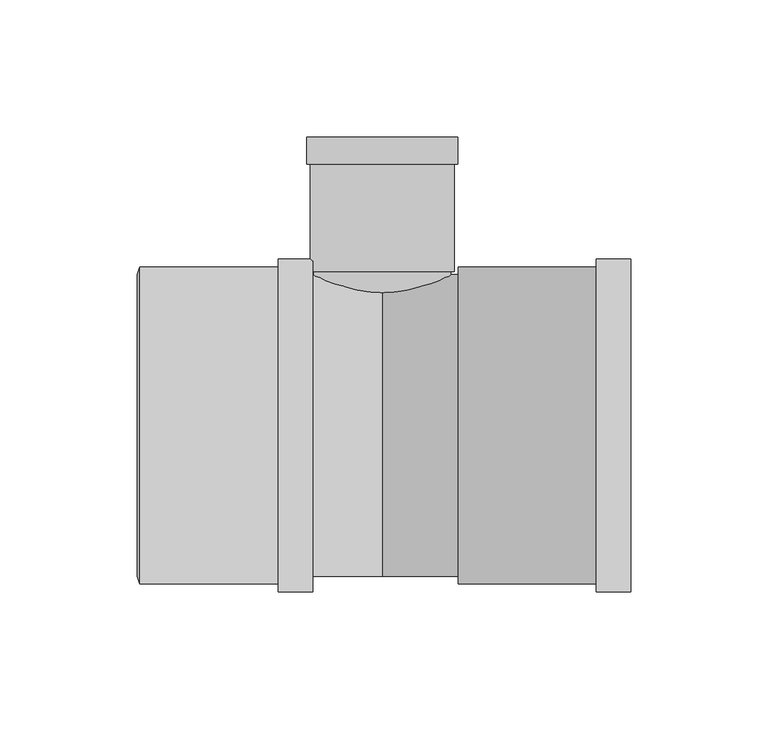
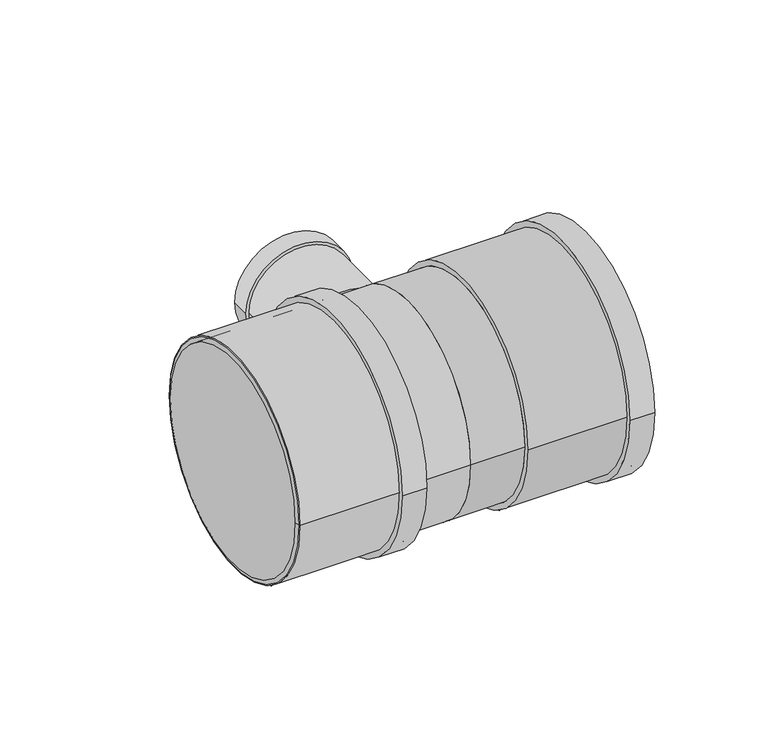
"""IFC4 building model written with IfcOpenShell, lengths in millimetres: pipe fitting geometry, Superdrain HTEA Branch : Superdrain HTEA Branch."""

import ifcopenshell
import ifcopenshell.guid

model = None  # the IFC model being written
_history = None  # IfcOwnerHistory: only IFC2X3 demands one
_inside = {}  # id of a spatial element -> (the spatial element, [elements in it])
_under = {}  # id of a project, library or spatial element -> (it, [spatial elements below it])
_declared = {}  # id of a project -> (the project, [libraries it declares])
_typed = {}  # id of a type object -> (the type object, [elements of that type])
_made_of = {}  # id of a material, layer set ... -> (it, [elements and type objects made of it])


def new_model(schema):
    """Start an empty IFC model of exactly this schema.

    Asked for "IFC4X3", IfcOpenShell would pick the latest addendum, in which some entities
    have other attributes; the version numbers below select the first issue.
    IFC2X3 requires an IfcOwnerHistory on every rooted entity: one is made here for all.
    """
    global model, _history
    if schema == "IFC4X3":
        model = ifcopenshell.file(schema_version=(4, 3, 0, 0))
    else:
        model = ifcopenshell.file(schema=schema)
    _inside.clear()
    _under.clear()
    _declared.clear()
    _typed.clear()
    _made_of.clear()
    _history = None
    if model.schema == "IFC2X3":
        org = make("IfcOrganization", Name="unknown")
        user = make(
            "IfcPersonAndOrganization",
            ThePerson=make("IfcPerson", FamilyName="unknown"),
            TheOrganization=org,
        )
        app = make(
            "IfcApplication",
            ApplicationDeveloper=org,
            Version="unknown",
            ApplicationFullName="unknown",
            ApplicationIdentifier="unknown",
        )
        _history = make(
            "IfcOwnerHistory",
            OwningUser=user,
            OwningApplication=app,
            ChangeAction="ADDED",
            CreationDate=0,
        )
    return model


def make(cls, **values):
    """One entity of the class cls with the attributes given. An attribute that is None is left unset."""
    return model.create_entity(
        cls, **{name: value for name, value in values.items() if value is not None}
    )


def rooted(cls, **values):
    """An entity with a GlobalId (a new one), such as an element, a storey or a relation."""
    return make(cls, GlobalId=ifcopenshell.guid.new(), OwnerHistory=_history, **values)


def si_unit(unit_type, name, prefix=None):
    """IfcSIUnit, for example si_unit("LENGTHUNIT", "METRE", prefix="MILLI")."""
    return make("IfcSIUnit", UnitType=unit_type, Prefix=prefix, Name=name)


def assignment(units):
    """IfcUnitAssignment: the units of a project."""
    return None if units is None else make("IfcUnitAssignment", Units=units)


def point(xyz):
    """IfcCartesianPoint."""
    return None if xyz is None else make("IfcCartesianPoint", Coordinates=xyz)


def direction(xyz):
    """IfcDirection."""
    return None if xyz is None else make("IfcDirection", DirectionRatios=xyz)


def frame(location, z_axis=None, x_axis=None):
    """IfcAxis2Placement3D, a coordinate frame: its origin and axes. An axis left out is left unset."""
    return make(
        "IfcAxis2Placement3D",
        Location=point(location),
        Axis=direction(z_axis),
        RefDirection=direction(x_axis),
    )


def frame_2d(location, x_axis=None):
    """IfcAxis2Placement2D, a coordinate frame in the plane: its origin and x axis."""
    return make(
        "IfcAxis2Placement2D", Location=point(location), RefDirection=direction(x_axis)
    )


def origin():
    """The frame at (0, 0, 0) with its axes left unset."""
    return frame((0.0, 0.0, 0.0))


def origin_2d():
    """The frame at (0, 0) in the plane with its x axis left unset."""
    return frame_2d((0.0, 0.0))


def place(relative_to, where):
    """IfcLocalPlacement: puts the frame where relative to a parent placement (None: the world)."""
    return make(
        "IfcLocalPlacement", PlacementRelTo=relative_to, RelativePlacement=where
    )


def context(
    kind, dimensions, precision=None, world=None, true_north=None, identifier=None
):
    """IfcGeometricRepresentationContext, for example the 3D "Model" context."""
    return make(
        "IfcGeometricRepresentationContext",
        ContextIdentifier=identifier,
        ContextType=kind,
        CoordinateSpaceDimension=dimensions,
        Precision=precision,
        WorldCoordinateSystem=world,
        TrueNorth=true_north,
    )


def project(units=None, contexts=None):
    """IfcProject with its units and contexts."""
    return rooted(
        "IfcProject",
        Name="project",
        RepresentationContexts=contexts,
        UnitsInContext=assignment(units),
    )


def spatial(cls, under=None, at=None, **own):
    """A site, building, storey or space (cls), placed at a placement, below another one or the project."""
    s = rooted(cls, ObjectPlacement=at, **own)
    if under is not None:
        _under.setdefault(under.id(), (under, []))[1].append(s)
    return s


def polyline(points):
    """IfcPolyline through the points."""
    return make("IfcPolyline", Points=[point(p) for p in points])


def circle_curve(where, radius):
    """IfcCircle in the frame where."""
    return make("IfcCircle", Position=where, Radius=radius)


def trimmed(basis, trim1, trim2, sense, master):
    """IfcTrimmedCurve: the piece of a basis curve between two trims."""
    return make(
        "IfcTrimmedCurve",
        BasisCurve=basis,
        Trim1=trim1,
        Trim2=trim2,
        SenseAgreement=sense,
        MasterRepresentation=master,
    )


def segment(curve, same_sense, transition):
    """IfcCompositeCurveSegment."""
    return make(
        "IfcCompositeCurveSegment",
        Transition=transition,
        SameSense=same_sense,
        ParentCurve=curve,
    )


def composite_curve(segments, self_intersect=None):
    """IfcCompositeCurve: segments joined end to end."""
    return make("IfcCompositeCurve", Segments=segments, SelfIntersect=self_intersect)


def outline(outer, holes=None, kind="AREA"):
    """IfcArbitraryClosedProfileDef: a profile drawn as a closed curve; with holes, ...WithVoids."""
    if holes is None:
        return make("IfcArbitraryClosedProfileDef", ProfileType=kind, OuterCurve=outer)
    return make(
        "IfcArbitraryProfileDefWithVoids",
        ProfileType=kind,
        OuterCurve=outer,
        InnerCurves=holes,
    )


def extrude(swept, where, along, depth):
    """IfcExtrudedAreaSolid: the profile swept, set in the frame where, extruded along a direction by depth."""
    return make(
        "IfcExtrudedAreaSolid",
        SweptArea=swept,
        Position=where,
        ExtrudedDirection=direction(along),
        Depth=depth,
    )


def shape(context_of_items, identifier, shape_type, items):
    """IfcShapeRepresentation: the items that make up one representation, for example the "Body"."""
    return make(
        "IfcShapeRepresentation",
        ContextOfItems=context_of_items,
        RepresentationIdentifier=identifier,
        RepresentationType=shape_type,
        Items=items,
    )


def source(mapping_origin, context_of_items, identifier, shape_type, items):
    """IfcRepresentationMap: a shape defined once, which mapped items show again and again."""
    return make(
        "IfcRepresentationMap",
        MappingOrigin=mapping_origin,
        MappedRepresentation=shape(context_of_items, identifier, shape_type, items),
    )


def transform(
    local_origin,
    x_axis=None,
    y_axis=None,
    z_axis=None,
    scale=None,
    scale2=None,
    scale3=None,
    uniform=True,
):
    """IfcCartesianTransformationOperator3D, or its non-uniform kind. x_axis, y_axis, z_axis: its Axis1, 2, 3."""
    if uniform:
        return make(
            "IfcCartesianTransformationOperator3D",
            Axis1=direction(x_axis),
            Axis2=direction(y_axis),
            LocalOrigin=point(local_origin),
            Scale=scale,
            Axis3=direction(z_axis),
        )
    return make(
        "IfcCartesianTransformationOperator3DnonUniform",
        Axis1=direction(x_axis),
        Axis2=direction(y_axis),
        LocalOrigin=point(local_origin),
        Scale=scale,
        Axis3=direction(z_axis),
        Scale2=scale2,
        Scale3=scale3,
    )


def mapped(mapping_source, mapping_target):
    """IfcMappedItem: shows the shape of a source again, moved by a transform."""
    return make(
        "IfcMappedItem", MappingSource=mapping_source, MappingTarget=mapping_target
    )


def made_of(thing, what):
    """Note that an element or type object is made of a material, layer set ...; save() writes the relation."""
    if what is not None:
        _made_of.setdefault(what.id(), (what, []))[1].append(thing)
    return thing


def element(
    cls,
    number,
    at=None,
    inside=None,
    cuts=None,
    type_object=None,
    material=None,
    context=None,
    identifier="Body",
    shape_type=None,
    held_by="IfcProductDefinitionShape",
    body=None,
    shapes=None,
    **own,
):
    """One element of the class cls, such as IfcWall. Its Tag is "e" and its number.

    at: its placement. inside: the storey or other place that contains it. cuts: it is an
    opening in that element (IfcRelVoidsElement). A single representation is given by context,
    identifier, shape_type and body (its items); several are given by shapes. held_by: the class
    of the entity that holds the representations. save() writes the other relations.
    """
    e = rooted(cls, Tag="e%d" % number, ObjectPlacement=at, **own)
    if body is not None:
        shapes = [shape(context, identifier, shape_type, body)]
    if shapes is not None:
        e.Representation = make(held_by, Representations=shapes)
    if inside is not None:
        _inside.setdefault(inside.id(), (inside, []))[1].append(e)
    if cuts is not None:
        rooted(
            "IfcRelVoidsElement", RelatingBuildingElement=cuts, RelatedOpeningElement=e
        )
    if type_object is not None:
        _typed.setdefault(type_object.id(), (type_object, []))[1].append(e)
    return made_of(e, material)


def aggregate(whole, parts):
    """IfcRelAggregates: a whole, such as a stair, and the parts it consists of."""
    return rooted("IfcRelAggregates", RelatingObject=whole, RelatedObjects=parts)


def save(model, path):
    """Write the relations noted so far, then the file.

    IfcRelAggregates (storeys below a building ...), IfcRelContainedInSpatialStructure (elements
    in a storey), IfcRelDefinesByType, IfcRelAssociatesMaterial and IfcRelDeclares: one each for
    every whole, place, type object, material and project.
    """
    for whole, parts in _under.values():
        aggregate(whole, parts)
    for where, things in _inside.values():
        rooted(
            "IfcRelContainedInSpatialStructure",
            RelatedElements=things,
            RelatingStructure=where,
        )
    for kind, things in _typed.values():
        rooted("IfcRelDefinesByType", RelatedObjects=things, RelatingType=kind)
    for what, things in _made_of.values():
        rooted("IfcRelAssociatesMaterial", RelatedObjects=things, RelatingMaterial=what)
    for by, libraries in _declared.values():
        rooted("IfcRelDeclares", RelatingContext=by, RelatedDefinitions=libraries)
    model.write(path)


def plane_surface(at):
    """IfcPlane: the flat surface through the origin of the frame at, square to its z axis."""
    return make("IfcPlane", Position=at)


def revolved_surface(curve, axis_point, axis_direction):
    """IfcSurfaceOfRevolution: the curve turned about the line through axis_point along axis_direction."""
    return make(
        "IfcSurfaceOfRevolution",
        SweptCurve=make("IfcArbitraryOpenProfileDef", ProfileType="CURVE", Curve=curve),
        AxisPosition=make("IfcAxis1Placement", Location=point(axis_point), Axis=direction(axis_direction)),
    )


def advanced_brep(points, edges, surfaces, faces):
    """IfcAdvancedBrep: a solid bounded by faces that lie on surfaces and meet in shared edges.

    An edge is (start, end): straight between two places in points (the first is 0);
    or (start, end, curve); or (start, end, curve, False) where it runs against its curve.
    A face is (place in surfaces, loops), or (place, loops, False) where it looks against
    its surface's normal. A loop lists edges by number (the first is 1), with a minus sign
    where the edge is run from its end to its start. The first loop is the outer one.
    """
    corners = [point(p) for p in points]
    vertices = [make("IfcVertexPoint", VertexGeometry=c) for c in corners]
    made = []
    for start, end, *more in edges:
        made.append(
            make(
                "IfcEdgeCurve",
                EdgeStart=vertices[start],
                EdgeEnd=vertices[end],
                EdgeGeometry=more[0] if more else make("IfcPolyline", Points=[corners[start], corners[end]]),
                SameSense=more[1] if len(more) > 1 else True,
            )
        )
    hull = []
    for where, loops, *sense in faces:
        bounds = []
        for j, loop in enumerate(loops):
            ring = [make("IfcOrientedEdge", EdgeElement=made[abs(k) - 1], Orientation=k > 0) for k in loop]
            bounds.append(
                make(
                    "IfcFaceOuterBound" if j == 0 else "IfcFaceBound",
                    Bound=make("IfcEdgeLoop", EdgeList=ring),
                    Orientation=True,
                )
            )
        hull.append(make("IfcAdvancedFace", Bounds=bounds, FaceSurface=surfaces[where], SameSense=sense[0] if sense else True))
    return make("IfcAdvancedBrep", Outer=make("IfcClosedShell", CfsFaces=hull))


def pipe_fitting_aa2c47de(model_context):
    return source(origin(), model_context, "Body", "SolidModel", [
        extrude(outline(composite_curve([segment(trimmed(circle_curve(origin_2d(), 57.75), [point((57.75, 0.0))], [point((-57.75, 0.0))], False, "CARTESIAN"), True, "CONTINUOUS"), segment(trimmed(circle_curve(origin_2d(), 57.75), [point((-57.75, 0.0))], [point((57.75, 0.0))], False, "CARTESIAN"), True, "CONTINUOUS")], self_intersect=False), holes=[composite_curve([segment(trimmed(circle_curve(origin_2d(), 55.0), [point((55.0, 0.0))], [point((-55.0, 0.0))], True, "CARTESIAN"), True, "CONTINUOUS"), segment(trimmed(circle_curve(origin_2d(), 55.0), [point((-55.0, 0.0))], [point((55.0, 0.0))], True, "CARTESIAN"), True, "CONTINUOUS")], self_intersect=False)]), frame((-88.4, 0.0, 0.0), z_axis=(1.0, 0.0, 0.0), x_axis=(0.0, 1.0, 0.0)), (0.0, 0.0, 1.0), 63.0),
        extrude(outline(composite_curve([segment(trimmed(circle_curve(origin_2d(), 60.6375), [point((60.6375, 0.0))], [point((-60.6375, 0.0))], False, "CARTESIAN"), True, "CONTINUOUS"), segment(trimmed(circle_curve(origin_2d(), 60.6375), [point((-60.6375, 0.0))], [point((60.6375, 0.0))], False, "CARTESIAN"), True, "CONTINUOUS")], self_intersect=False), holes=[composite_curve([segment(trimmed(circle_curve(origin_2d(), 55.0), [point((55.0, 0.0))], [point((-55.0, 0.0))], True, "CARTESIAN"), True, "CONTINUOUS"), segment(trimmed(circle_curve(origin_2d(), 55.0), [point((-55.0, 0.0))], [point((55.0, 0.0))], True, "CARTESIAN"), True, "CONTINUOUS")], self_intersect=False)]), frame((-38.0, 0.0, 0.0), z_axis=(1.0, 0.0, 0.0), x_axis=(0.0, 1.0, 0.0)), (0.0, 0.0, 1.0), 12.6),
        advanced_brep(
        [(-89.4, 55.0, 0.0), (-89.4, -55.0, 0.0), (-88.4, 57.75, 0.0), (-88.4, -57.75, 0.0)],
        [
            (0, 1, circle_curve(frame((-89.4, 0.0, 0.0), z_axis=(-1.0, 0.0, 0.0), x_axis=(0.0, 1.0, 0.0)), 55.0)),
            (1, 0, circle_curve(frame((-89.4, 0.0, 0.0), z_axis=(-1.0, 0.0, 0.0), x_axis=(0.0, -1.0, 0.0)), 55.0)),
            (2, 3, circle_curve(frame((-88.4, 0.0, 0.0), z_axis=(1.0, 0.0, 0.0), x_axis=(0.0, -1.0, 0.0)), 57.75)),
            (3, 2, circle_curve(frame((-88.4, 0.0, 0.0), z_axis=(1.0, 0.0, 0.0), x_axis=(0.0, 1.0, 0.0)), 57.75)),
            (3, 1),
            (0, 2),
        ],
        [
            plane_surface(frame((-89.4, 0.0, 0.0), z_axis=(-1.0, 0.0, 0.0), x_axis=(0.0, 0.0, -1.0))),
            plane_surface(frame((-88.4, 0.0, 0.0), z_axis=(1.0, 0.0, 0.0), x_axis=(0.0, 0.0, -1.0))),
            revolved_surface(polyline([(-89.4, 55.0, 0.0), (-88.4, 57.75, 0.0)]), (-109.4, 0.0, 0.0), (1.0, 0.0, 0.0)),
            revolved_surface(polyline([(-89.4, -55.0, 0.0), (-88.4, -57.75, 0.0)]), (-109.4, 0.0, 0.0), (1.0, 0.0, 0.0)),
        ],
        [
            (0, [[1, 2]]),
            (1, [[3, 4]]),
            (2, [[-4, 5, -1, 6]]),
            (3, [[-3, -6, -2, -5]]),
        ],
    ),
        extrude(outline(composite_curve([segment(trimmed(circle_curve(origin_2d(), 57.75), [point((-57.75, 0.0))], [point((57.75, 0.0))], False, "CARTESIAN"), True, "CONTINUOUS"), segment(trimmed(circle_curve(origin_2d(), 57.75), [point((57.75, 0.0))], [point((-57.75, 0.0))], False, "CARTESIAN"), True, "CONTINUOUS")], self_intersect=False), holes=[composite_curve([segment(trimmed(circle_curve(origin_2d(), 55.0), [point((55.0, 0.0))], [point((-55.0, 0.0))], True, "CARTESIAN"), True, "CONTINUOUS"), segment(trimmed(circle_curve(origin_2d(), 55.0), [point((-55.0, 0.0))], [point((55.0, 0.0))], True, "CARTESIAN"), True, "CONTINUOUS")], self_intersect=False)]), frame((27.6, 0.0, 0.0), z_axis=(1.0, 0.0, 0.0), x_axis=(0.0, 1.0, 0.0)), (0.0, 0.0, 1.0), 63.0),
        extrude(outline(composite_curve([segment(trimmed(circle_curve(origin_2d(), 60.6375), [point((60.6375, 0.0))], [point((-60.6375, 0.0))], False, "CARTESIAN"), True, "CONTINUOUS"), segment(trimmed(circle_curve(origin_2d(), 60.6375), [point((-60.6375, 0.0))], [point((60.6375, 0.0))], False, "CARTESIAN"), True, "CONTINUOUS")], self_intersect=False), holes=[composite_curve([segment(trimmed(circle_curve(origin_2d(), 55.0), [point((55.0, 0.0))], [point((-55.0, 0.0))], True, "CARTESIAN"), True, "CONTINUOUS"), segment(trimmed(circle_curve(origin_2d(), 55.0), [point((-55.0, 0.0))], [point((55.0, 0.0))], True, "CARTESIAN"), True, "CONTINUOUS")], self_intersect=False)]), frame((78.0, 0.0, 0.0), z_axis=(1.0, 0.0, 0.0), x_axis=(0.0, 1.0, 0.0)), (0.0, 0.0, 1.0), 12.6),
        extrude(outline(composite_curve([segment(trimmed(circle_curve(origin_2d(), 25.0), [point((0.0, 25.0))], [point((0.0, -25.0))], False, "CARTESIAN"), True, "CONTINUOUS"), segment(trimmed(circle_curve(origin_2d(), 25.0), [point((0.0, -25.0))], [point((0.0, 25.0))], False, "CARTESIAN"), True, "CONTINUOUS")], self_intersect=False)), frame((0.0, 0.0, 0.0), z_axis=(0.0, 1.0, 0.0), x_axis=(0.0, 0.0, 1.0)), (0.0, 0.0, 1.0), 56.2),
        extrude(outline(composite_curve([segment(trimmed(circle_curve(origin_2d(), 55.0), [point((55.0, 0.0))], [point((-55.0, 0.0))], False, "CARTESIAN"), True, "CONTINUOUS"), segment(trimmed(circle_curve(origin_2d(), 55.0), [point((-55.0, 0.0))], [point((55.0, 0.0))], False, "CARTESIAN"), True, "CONTINUOUS")], self_intersect=False)), frame((-88.4, 0.0, 0.0), z_axis=(1.0, 0.0, 0.0), x_axis=(0.0, 1.0, 0.0)), (0.0, 0.0, 1.0), 88.4),
        extrude(outline(composite_curve([segment(trimmed(circle_curve(origin_2d(), 55.0), [point((-55.0, 0.0))], [point((55.0, 0.0))], False, "CARTESIAN"), True, "CONTINUOUS"), segment(trimmed(circle_curve(origin_2d(), 55.0), [point((55.0, 0.0))], [point((-55.0, 0.0))], False, "CARTESIAN"), True, "CONTINUOUS")], self_intersect=False)), frame((0.0, 0.0, 0.0), z_axis=(1.0, 0.0, 0.0), x_axis=(0.0, 1.0, 0.0)), (0.0, 0.0, 1.0), 27.6),
        extrude(outline(composite_curve([segment(trimmed(circle_curve(origin_2d(), 27.5625), [point((0.0, 27.5625))], [point((0.0, -27.5625))], False, "CARTESIAN"), True, "CONTINUOUS"), segment(trimmed(circle_curve(origin_2d(), 27.5625), [point((0.0, -27.5625))], [point((0.0, 27.5625))], False, "CARTESIAN"), True, "CONTINUOUS")], self_intersect=False), holes=[composite_curve([segment(trimmed(circle_curve(origin_2d(), 25.0), [point((0.0, 25.0))], [point((0.0, -25.0))], True, "CARTESIAN"), True, "CONTINUOUS"), segment(trimmed(circle_curve(origin_2d(), 25.0), [point((0.0, -25.0))], [point((0.0, 25.0))], True, "CARTESIAN"), True, "CONTINUOUS")], self_intersect=False)]), frame((0.0, 95.4, 0.0), z_axis=(0.0, 1.0, 0.0), x_axis=(0.0, 0.0, 1.0)), (0.0, 0.0, 1.0), 9.8),
        extrude(outline(composite_curve([segment(trimmed(circle_curve(origin_2d(), 26.25), [point((0.0, 26.25))], [point((0.0, -26.25))], False, "CARTESIAN"), True, "CONTINUOUS"), segment(trimmed(circle_curve(origin_2d(), 26.25), [point((0.0, -26.25))], [point((0.0, 26.25))], False, "CARTESIAN"), True, "CONTINUOUS")], self_intersect=False), holes=[composite_curve([segment(trimmed(circle_curve(origin_2d(), 25.0), [point((0.0, 25.0))], [point((0.0, -25.0))], True, "CARTESIAN"), True, "CONTINUOUS"), segment(trimmed(circle_curve(origin_2d(), 25.0), [point((0.0, -25.0))], [point((0.0, 25.0))], True, "CARTESIAN"), True, "CONTINUOUS")], self_intersect=False)]), frame((0.0, 56.2, 0.0), z_axis=(0.0, 1.0, 0.0), x_axis=(0.0, 0.0, 1.0)), (0.0, 0.0, 1.0), 49.0),
    ])


if __name__ == "__main__":
    model = new_model("IFC4")
    model_context = context("Model", 3, world=origin())
    ifc_project = project(units=[si_unit("LENGTHUNIT", "METRE", prefix="MILLI")], contexts=[model_context])
    site = spatial("IfcSite", under=ifc_project)
    building = spatial("IfcBuilding", under=site)
    placement = place(None, origin())
    pipe_fitting_shape = pipe_fitting_aa2c47de(model_context)
    element("IfcPipeFitting", 1, ObjectType="Superdrain HTEA Branch : Superdrain HTEA Branch", at=placement, inside=building, context=model_context, shape_type="MappedRepresentation", body=[
        mapped(pipe_fitting_shape, transform((0.0, 0.0, 0.0), x_axis=(1.0, 0.0, 0.0), y_axis=(0.0, 1.0, 0.0), z_axis=(0.0, 0.0, 1.0))),
    ])
    save(model, "model.ifc")
